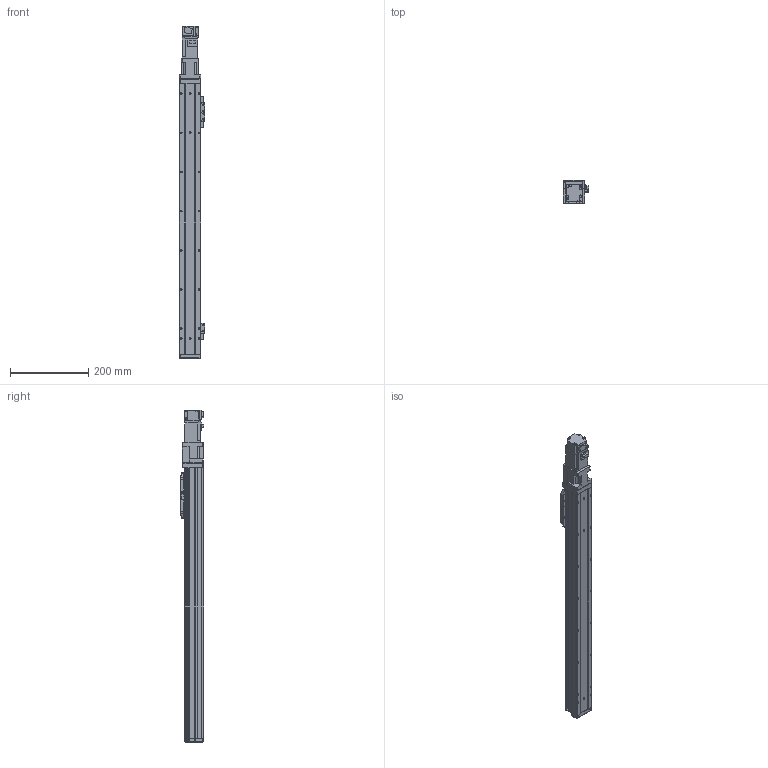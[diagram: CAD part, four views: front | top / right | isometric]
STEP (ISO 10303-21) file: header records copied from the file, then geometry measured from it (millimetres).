
FILE_DESCRIPTION (( 'STEP AP214' ), '1' );
FILE_NAME ('N_GRH5-550-BC-M10.step', '2025-03-14T09:34:09', ( '' ), ( '' ), 'SwSTEP 2.0', 'SolidWorks 2016', '' );
FILE_SCHEMA (( 'AUTOMOTIVE_DESIGN' ));
Length unit declared in the file: millimetre
Products named in the file (5): N_GRH5-550-BC-M10; N_GRH5-BC-008^N_GRH5-550-BC-M10; N_GRH5-GY-011^N_GRH5-550-BC-M10; HF-KP13_100W_Motor^N_GRH5-550-BC-M10; N_GRH5-GY-004^N_GRH5-550-BC-M10
Assembly tree (4 placements, depth 2):
  N_GRH5-550-BC-M10
    N_GRH5-GY-011^N_GRH5-550-BC-M10
    N_GRH5-GY-004^N_GRH5-550-BC-M10
    N_GRH5-BC-008^N_GRH5-550-BC-M10
    HF-KP13_100W_Motor^N_GRH5-550-BC-M10
Bounding box: 64.05 x 60.7 x 847.9 mm (x, y, z)
Volume: 1370165.7 mm3; surface area: 368106.5 mm2
Topology: 4 solids, 5 shells, 944 faces, 2438 edges, 1551 vertices
Faces by surface type: plane 556, cylinder 328, cone 58, sphere 2
Entity records: 35246 total; most frequent: DIRECTION 4985, CARTESIAN_POINT 4976, ORIENTED_EDGE 4804, EDGE_CURVE 2402, VECTOR 1685, LINE 1685, AXIS2_PLACEMENT_3D 1650, VERTEX_POINT 1549
